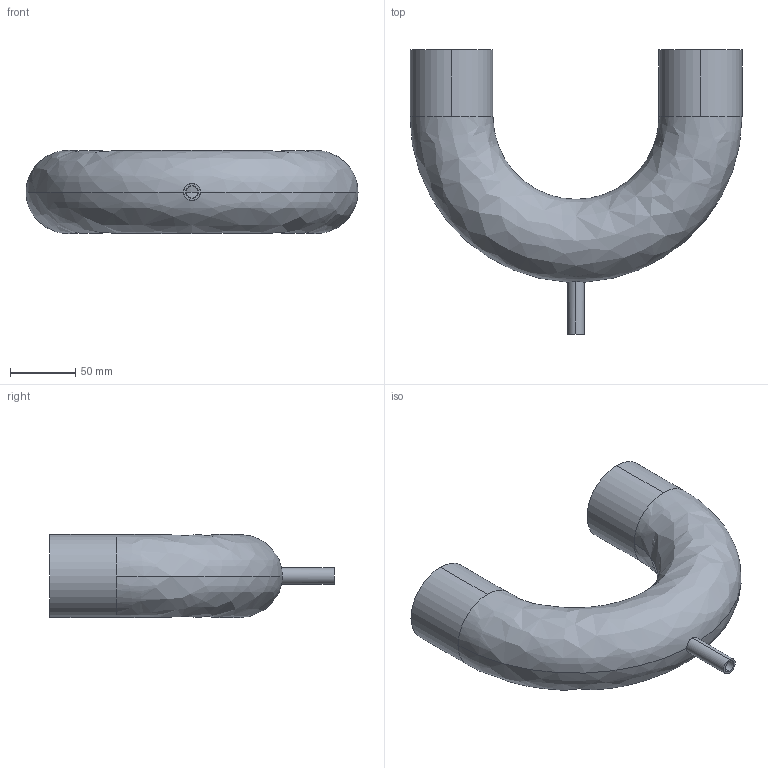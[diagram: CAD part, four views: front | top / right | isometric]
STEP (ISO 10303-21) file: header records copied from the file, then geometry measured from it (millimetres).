
FILE_DESCRIPTION (( 'STEP AP214' ), '1' );
FILE_NAME ('TE2UBWWW6L2.5x.5-...STEP', '2016-05-25T05:27:55', ( 'eran' ), ( '' ), 'SwSTEP 2.0', 'SolidWorks 2016', '' );
FILE_SCHEMA (( 'AUTOMOTIVE_DESIGN' ));
Length unit declared in the file: millimetre
Products named in the file (1): TE2UBWWW6L2.5x.5-..
Bounding box: 254 x 217.5 x 63.5 mm (x, y, z)
Volume: 130717.2 mm3; surface area: 159135.7 mm2
Topology: 1 solids, 1 shells, 19 faces, 54 edges, 36 vertices
Faces by surface type: cylinder 12, bspline 4, plane 3
Entity records: 864 total; most frequent: CARTESIAN_POINT 322, DIRECTION 112, ORIENTED_EDGE 108, EDGE_CURVE 54, AXIS2_PLACEMENT_3D 50, VERTEX_POINT 36, CIRCLE 34, EDGE_LOOP 22
